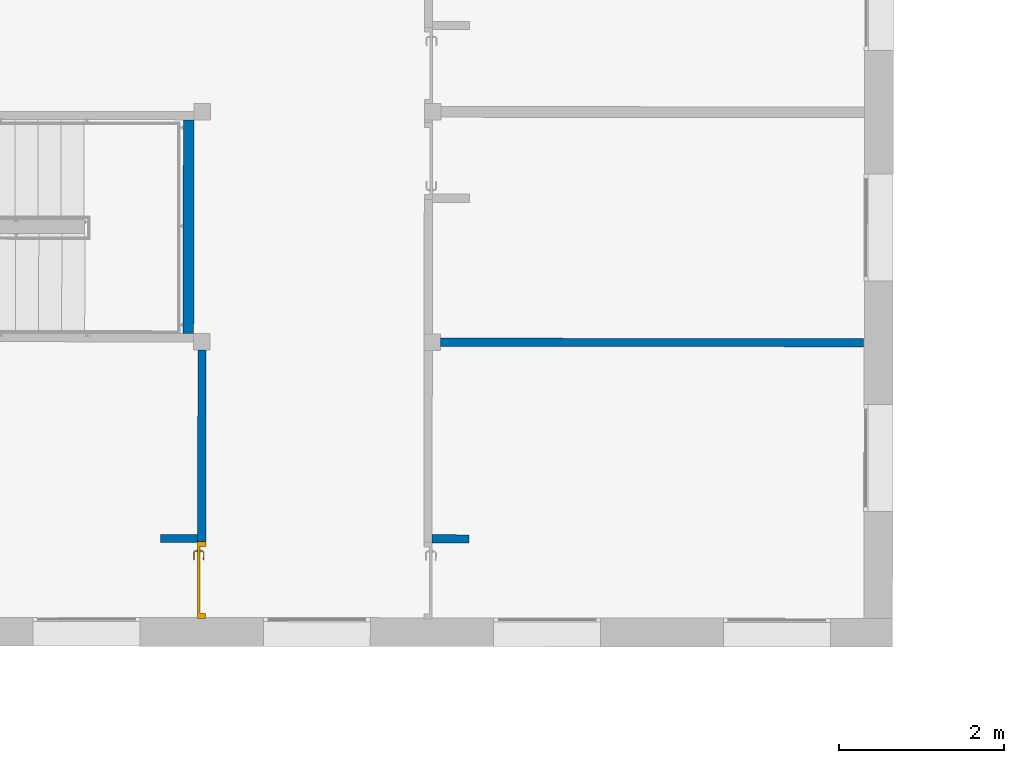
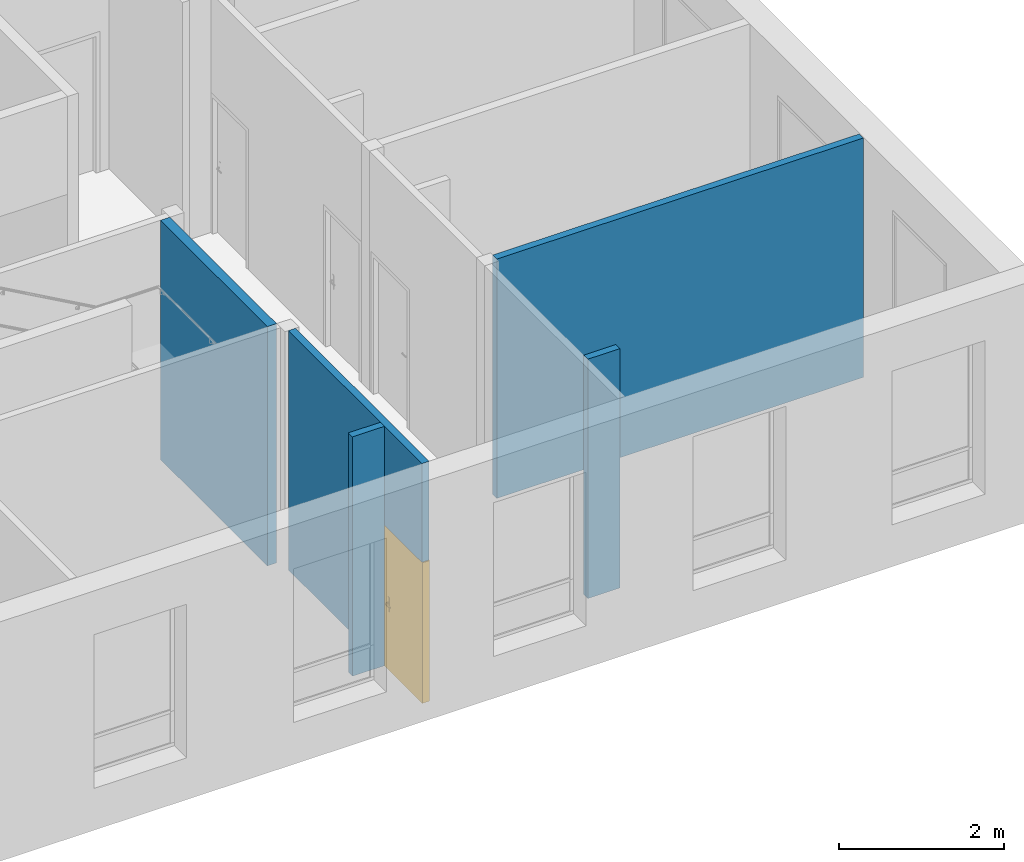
# One storey, part 71 of 101: 5 walls, 1 door, 1 opening.
"""IFC2X3 building model written with IfcOpenShell, lengths in metres."""

from ifc_helpers import new_model, entity, si_unit, converted_unit, derived_unit, direction, frame, frame_2d, origin, place, context, subcontext, project, spatial, rectangle, extrude, faceted_brep, source, transform, mapped, material, material_list, layer, layer_set, layer_usage, type_object, type_shapes, element, fill, save


model = new_model("IFC2X3")

# Units and contexts
model_context = context("Model", 3, precision=1e-05, world=origin(), true_north=direction((6.123233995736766e-17, 1.0)))
body_context = subcontext(model_context, "Body", "Model", "MODEL_VIEW")
ifc_project = project(units=[si_unit("LENGTHUNIT", "METRE"), si_unit("AREAUNIT", "SQUARE_METRE"), converted_unit("PLANEANGLEUNIT", "DEGREE", entity("IfcPlaneAngleMeasure", 0.017453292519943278), si_unit("PLANEANGLEUNIT", "RADIAN"), dimensions=[0, 0, 0, 0, 0, 0, 0]), derived_unit("THERMALTRANSMITTANCEUNIT", [(si_unit("MASSUNIT", "GRAM", prefix="KILO"), 1), (si_unit("THERMODYNAMICTEMPERATUREUNIT", "KELVIN"), -1), (si_unit("TIMEUNIT", "SECOND"), -3)])], contexts=[model_context])

# Site, building, storey
site_placement = place(None, frame((1253.6752467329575, 2072.143113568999, 91.49999999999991), z_axis=(0.0, 0.0, 1.0), x_axis=(0.7237211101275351, 0.6900925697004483, 0.0)))
site = spatial("IfcSite", under=ifc_project, at=site_placement, Name="Surface", CompositionType="ELEMENT")
building_placement = place(site_placement, origin())
building = spatial("IfcBuilding", under=site, at=building_placement, CompositionType="ELEMENT")
storey_placement = place(building_placement, origin())
storey = spatial("IfcBuildingStorey", under=building, at=storey_placement, Name="0- Rdc", CompositionType="ELEMENT", Elevation=-5.764692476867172e-13)

# Walls
ifc_material_1 = material(Name="OMD_Béton blanc")
ifc_layer_1 = layer(ifc_material_1, 0.12999999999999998)
ifc_layer_set_1 = layer_set([ifc_layer_1], Name="Mur de base:MUR 13")
ifc_layer_usage_1 = layer_usage(ifc_layer_set_1, "AXIS2", "NEGATIVE", 0.06499999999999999)
wall_type_1 = type_object("IfcWallType", Name="Mur de base:MUR 13", PredefinedType="STANDARD", material=ifc_layer_set_1)
wall_1_placement = place(storey_placement, frame((177.53357594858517, -19.185278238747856, 0.0), z_axis=(0.0, 0.0, 1.0), x_axis=(-0.6909838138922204, -0.7228702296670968, 0.0)))
element("IfcWallStandardCase", 1, at=wall_1_placement, inside=storey, type_object=wall_type_1, material=ifc_layer_usage_1, Name="Mur de base:MUR 13", ObjectType="Mur de base:MUR 13", context=body_context, shape_type="SweptSolid", body=[
    extrude(rectangle(XDim=2.5999999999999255, YDim=0.12999999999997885, at=frame_2d((1.2999999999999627, 9.575673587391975e-16), x_axis=(-1.0, 0.0))), origin(), (0.0, 0.0, 1.0), 3.5499999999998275),
])
ifc_layer_2 = layer(ifc_material_1, 0.1)
ifc_layer_set_2 = layer_set([ifc_layer_2], Name="Mur de base:MUR 10")
ifc_layer_usage_2 = layer_usage(ifc_layer_set_2, "AXIS2", "NEGATIVE", 0.05)
wall_type_2 = type_object("IfcWallType", Name="Mur de base:MUR 10", PredefinedType="STANDARD", material=ifc_layer_set_2)
wall_2_placement = place(storey_placement, frame((181.59906988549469, -26.806550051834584, 0.0), z_axis=(0.0, 0.0, 1.0), x_axis=(-0.7228702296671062, 0.6909838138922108, 0.0)))
element("IfcWallStandardCase", 2, at=wall_2_placement, inside=storey, type_object=wall_type_2, material=ifc_layer_usage_2, Name="Mur de base:MUR 10", ObjectType="Mur de base:MUR 10", context=body_context, shape_type="SweptSolid", body=[
    extrude(rectangle(XDim=5.140000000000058, YDim=0.100000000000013, at=frame_2d((2.570000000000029, -4.399258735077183e-15), x_axis=(-1.0, 0.0))), origin(), (0.0, 0.0, 1.0), 3.5499999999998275),
])
ifc_layer_usage_3 = layer_usage(ifc_layer_set_2, "AXIS2", "NEGATIVE", 0.05)
wall_3_placement = place(storey_placement, frame((176.4850701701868, -25.22439743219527, 0.0), z_axis=(0.0, 0.0, 1.0), x_axis=(-0.7228702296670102, 0.6909838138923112, 0.0)))
element("IfcWallStandardCase", 3, at=wall_3_placement, inside=storey, type_object=wall_type_2, material=ifc_layer_usage_3, Name="Mur de base:MUR 10", ObjectType="Mur de base:MUR 10", context=body_context, shape_type="SweptSolid", body=[
    extrude(rectangle(XDim=0.449999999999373, YDim=0.10000000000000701, at=frame_2d((0.2249999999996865, -1.4814538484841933e-15), x_axis=(-1.0, 0.0))), origin(), (0.0, 0.0, 1.0), 3.5499999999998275),
])

# Wall, opening, door
ifc_layer_usage_4 = layer_usage(ifc_layer_set_2, "AXIS2", "NEGATIVE", 0.05)
wall_4_placement = place(storey_placement, frame((175.71809485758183, -21.323327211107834, 0.0), z_axis=(0.0, 0.0, 1.0), x_axis=(-0.6909838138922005, -0.7228702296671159, 0.0)))
wall_4 = element("IfcWallStandardCase", 4, at=wall_4_placement, inside=storey, type_object=wall_type_2, material=ifc_layer_usage_4, Name="Mur de base:MUR 10", ObjectType="Mur de base:MUR 10", context=body_context, shape_type="SweptSolid", body=[
    extrude(rectangle(XDim=3.2499999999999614, YDim=0.10000000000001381, at=frame_2d((1.6249999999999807, 4.753142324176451e-16), x_axis=(-1.0, 0.0))), origin(), (0.0, 0.0, 1.0), 3.5499999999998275),
])
opening_placement = place(wall_4_placement, frame((3.2624999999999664, 0.050000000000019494, 0.0)))
opening = element("IfcOpeningElement", 5, at=opening_placement, cuts=wall_4, Name="OMD_Porte 1V tunnel:80x204:1", ObjectType="Opening", context=body_context, shape_type="SweptSolid", body=[
    extrude(rectangle(XDim=2.0850000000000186, YDim=0.9349999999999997, at=frame_2d((1.0425000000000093, 0.46749999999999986), x_axis=(1.0, 0.0))), frame((0.0, 0.0, 0.0), z_axis=(0.0, -1.0, 0.0), x_axis=(0.0, 0.0, 1.0)), (0.0, 0.0, 1.0), 0.1),
])
ifc_material_2 = material(Name="Porte - Poignée")
ifc_material_3 = material(Name="OMD_Peinture mur")
ifc_material_4 = material(Name="OMD_Bois")
ifc_material_list = material_list([ifc_material_2, ifc_material_3, ifc_material_4])
door_style = type_object("IfcDoorStyle", Name="OMD_Porte 1V tunnel:80x204", ConstructionType="NOTDEFINED", OperationType="NOTDEFINED", ParameterTakesPrecedence=False, Sizeable=False, material=ifc_material_list)
shared_shape = source(origin(), body_context, "Body", "Brep", [
    faceted_brep([(0.21297470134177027, 0.03500000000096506, 1.0077804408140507), (0.20900000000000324, 0.03500000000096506, 1.0069999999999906), (0.208999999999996, 0.03500000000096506, 0.9929999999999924), (0.21297470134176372, 0.03500000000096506, 0.9922195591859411), (0.21702529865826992, 0.03500000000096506, 0.9922195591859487), (0.22100000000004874, 0.03500000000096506, 0.9930000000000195), (0.22100000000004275, 0.03500000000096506, 1.0069999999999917), (0.2170252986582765, 0.03500000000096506, 1.007780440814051), (0.22100000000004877, 0.05748520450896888, 0.9930000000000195), (0.22100000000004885, 0.057485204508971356, 1.0069999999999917), (0.21702529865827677, 0.059131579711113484, 1.007780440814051), (0.23083890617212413, 0.07294518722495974, 1.007780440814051), (0.2291610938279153, 0.07699578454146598, 1.0077804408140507), (0.21297470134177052, 0.060809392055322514, 1.0077804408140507), (0.3206847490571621, 0.0664673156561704, 1.0077804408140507), (0.32354895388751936, 0.06933152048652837, 1.0077804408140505), (0.31588468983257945, 0.07699578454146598, 1.0077804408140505), (0.31420687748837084, 0.07294518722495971, 1.0077804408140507), (0.20900000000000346, 0.06245576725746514, 1.0069999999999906), (0.20900000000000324, 0.06245576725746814, 0.9929999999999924), (0.21297470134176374, 0.06080939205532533, 0.9922195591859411), (0.22916109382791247, 0.07699578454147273, 0.9922195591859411), (0.23083890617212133, 0.07294518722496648, 0.9922195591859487), (0.21702529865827, 0.05913157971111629, 0.9922195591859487), (0.32354895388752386, 0.06933152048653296, 0.9922195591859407), (0.3206847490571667, 0.06646731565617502, 0.9922195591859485), (0.3142068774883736, 0.07294518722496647, 0.9922195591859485), (0.3158846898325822, 0.07699578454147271, 0.9922195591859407), (0.23248528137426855, 0.0689704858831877, 0.9930000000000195), (0.23248528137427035, 0.06897048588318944, 1.0069999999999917), (0.22751471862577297, 0.0809704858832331, 1.0069999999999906), (0.22751471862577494, 0.08097048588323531, 0.9929999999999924), (0.2725228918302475, 0.06897048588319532, 0.9930000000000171), (0.3125605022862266, 0.06897048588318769, 0.9930000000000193), (0.31256050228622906, 0.06897048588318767, 1.0069999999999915), (0.2725228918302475, 0.0689704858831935, 1.0069999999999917), (0.2725228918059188, 0.07512492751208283, 1.0078781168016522), (0.31753106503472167, 0.08097048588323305, 1.0069999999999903), (0.2776005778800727, 0.08097048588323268, 1.0069999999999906), (0.31753106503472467, 0.08097048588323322, 0.9929999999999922), (0.2674452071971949, 0.08097048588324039, 0.9929999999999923), (0.2725228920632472, 0.07512492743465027, 0.9921218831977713), (0.317874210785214, 0.06365677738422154, 0.9930000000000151), (0.32635949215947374, 0.07214205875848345, 0.99299999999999), (0.3263594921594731, 0.07214205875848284, 1.0069999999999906), (0.317874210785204, 0.06365677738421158, 1.0069999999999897)], [[[0, 1, 2, 3, 4, 5, 6, 7]], [[6, 5, 8, 9]], [[9, 10, 7, 6]], [[10, 11, 12, 13, 0, 7]], [[14, 15, 16, 17]], [[13, 18, 1, 0]], [[2, 1, 18, 19]], [[19, 20, 3, 2]], [[20, 21, 22, 23, 4, 3]], [[24, 25, 26, 27]], [[23, 8, 5, 4]], [[9, 8, 28, 29]], [[29, 11, 10, 9]], [[12, 30, 18, 13]], [[19, 18, 30, 31]], [[31, 21, 20, 19]], [[22, 28, 8, 23]], [[29, 28, 32, 33, 34, 35]], [[11, 35, 36]], [[16, 37, 38]], [[30, 12, 38]], [[38, 12, 36]], [[36, 35, 17]], [[17, 16, 36]], [[35, 11, 29]], [[34, 17, 35]], [[11, 36, 12]], [[38, 36, 16]], [[31, 30, 38, 37, 39, 40]], [[40, 41, 21]], [[41, 40, 27]], [[21, 31, 40]], [[39, 27, 40]], [[41, 32, 22]], [[22, 21, 41]], [[26, 32, 41]], [[28, 22, 32]], [[32, 26, 33]], [[26, 41, 27]], [[42, 25, 24, 43, 44, 15, 14, 45]], [[34, 33, 42, 45]], [[45, 14, 17, 34]], [[15, 44, 37, 16]], [[39, 37, 44, 43]], [[43, 24, 27, 39]], [[25, 42, 33, 26]]]),
    faceted_brep([(0.21297470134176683, -0.004999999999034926, 1.0077804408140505), (0.2170252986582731, -0.004999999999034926, 1.007780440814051), (0.2210000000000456, -0.004999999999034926, 1.006999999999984), (0.22100000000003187, -0.004999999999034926, 0.9930000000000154), (0.21702529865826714, -0.004999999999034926, 0.9922195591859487), (0.21297470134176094, -0.004999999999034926, 0.992219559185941), (0.20900000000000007, -0.004999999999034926, 0.992999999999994), (0.20900000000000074, -0.004999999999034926, 1.0069999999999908), (0.20900000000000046, -0.03265095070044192, 1.0069999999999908), (0.21297470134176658, -0.03100457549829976, 1.0077804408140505), (0.22902358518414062, -0.04705345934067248, 1.0077804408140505), (0.2307013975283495, -0.04300286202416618, 1.007780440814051), (0.21702529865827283, -0.02932676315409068, 1.007780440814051), (0.3235218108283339, -0.039389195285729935, 1.0077804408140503), (0.3206576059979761, -0.03652499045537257, 1.0077804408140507), (0.3141797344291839, -0.04300286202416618, 1.0077804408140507), (0.31585754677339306, -0.04705345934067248, 1.0077804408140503), (0.22100000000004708, -0.027680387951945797, 1.0069999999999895), (0.22100000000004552, -0.02768038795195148, 0.9930000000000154), (0.21702529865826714, -0.029326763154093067, 0.9922195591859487), (0.23070139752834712, -0.04300286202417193, 0.9922195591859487), (0.2290235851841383, -0.0470534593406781, 0.992219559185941), (0.21297470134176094, -0.031004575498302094, 0.992219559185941), (0.32065760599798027, -0.036524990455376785, 0.9922195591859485), (0.3235218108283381, -0.03938919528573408, 0.9922195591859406), (0.31585754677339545, -0.047053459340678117, 0.9922195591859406), (0.3141797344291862, -0.04300286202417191, 0.9922195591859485), (0.20899999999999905, -0.032650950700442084, 0.9929999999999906), (0.22737720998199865, -0.051028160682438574, 1.0069999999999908), (0.23234777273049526, -0.03902816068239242, 1.0069999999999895), (0.23234777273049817, -0.03902816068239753, 0.9930000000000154), (0.22737720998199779, -0.051028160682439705, 0.9929999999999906), (0.2673076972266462, -0.05102816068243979, 1.0069999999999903), (0.272440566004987, -0.0451828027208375, 1.0078781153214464), (0.3175039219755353, -0.05102816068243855, 1.0069999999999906), (0.27244056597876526, -0.039028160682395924, 1.0069999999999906), (0.3125333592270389, -0.03902816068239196, 1.0069999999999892), (0.31253335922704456, -0.03902816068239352, 0.9930000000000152), (0.27244056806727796, -0.03902816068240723, 0.9930000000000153), (0.27244056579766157, -0.04518280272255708, 0.9921218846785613), (0.3175039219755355, -0.051028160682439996, 0.9929999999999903), (0.27757344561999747, -0.051028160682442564, 0.9929999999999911), (0.3178470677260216, -0.03371445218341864, 1.0069999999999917), (0.3263323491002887, -0.04219973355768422, 1.0069999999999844), (0.3263323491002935, -0.04219973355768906, 0.9929999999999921), (0.31784706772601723, -0.033714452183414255, 0.9930000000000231)], [[[0, 1, 2, 3, 4, 5, 6, 7]], [[8, 9, 0, 7]], [[9, 10, 11, 12, 1, 0]], [[13, 14, 15, 16]], [[12, 17, 2, 1]], [[3, 2, 17, 18]], [[18, 19, 4, 3]], [[19, 20, 21, 22, 5, 4]], [[23, 24, 25, 26]], [[22, 27, 6, 5]], [[7, 6, 27, 8]], [[28, 10, 9, 8]], [[11, 29, 17, 12]], [[18, 17, 29, 30]], [[30, 20, 19, 18]], [[21, 31, 27, 22]], [[8, 27, 31, 28]], [[32, 33, 10]], [[33, 32, 16]], [[10, 28, 32]], [[34, 16, 32]], [[33, 35, 11]], [[11, 10, 33]], [[15, 35, 33]], [[29, 11, 35]], [[35, 15, 36]], [[15, 33, 16]], [[30, 29, 35, 36, 37, 38]], [[20, 38, 39]], [[25, 40, 41]], [[31, 21, 41]], [[41, 21, 39]], [[39, 38, 26]], [[26, 25, 39]], [[38, 20, 30]], [[37, 26, 38]], [[20, 39, 21]], [[41, 39, 25]], [[28, 31, 41, 40, 34, 32]], [[42, 14, 13, 43, 44, 24, 23, 45]], [[43, 13, 16, 34]], [[14, 42, 36, 15]], [[37, 36, 42, 45]], [[45, 23, 26, 37]], [[24, 44, 40, 25]], [[34, 40, 44, 43]]]),
    faceted_brep([(0.22535276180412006, 0.030000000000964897, 0.8660039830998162), (0.2350000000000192, 0.030000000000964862, 0.8700000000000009), (0.2350000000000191, 0.030000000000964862, 1.0800000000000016), (0.2253527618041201, 0.030000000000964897, 1.0839960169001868), (0.21500000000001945, 0.030000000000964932, 1.0853589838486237), (0.20464723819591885, 0.03000000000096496, 1.0839960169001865), (0.19500000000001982, 0.030000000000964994, 1.0800000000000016), (0.19500000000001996, 0.030000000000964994, 0.8700000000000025), (0.20464723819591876, 0.03000000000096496, 0.866003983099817), (0.21500000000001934, 0.030000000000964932, 0.8646410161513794), (0.22535276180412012, 0.0350000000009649, 1.0839960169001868), (0.2350000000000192, 0.03500000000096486, 1.0800000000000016), (0.23500000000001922, 0.03500000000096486, 0.8700000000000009), (0.22535276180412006, 0.0350000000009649, 0.8660039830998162), (0.21500000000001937, 0.03500000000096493, 0.8646410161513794), (0.20464723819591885, 0.03500000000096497, 0.866003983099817), (0.19500000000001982, 0.035000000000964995, 0.8700000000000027), (0.19500000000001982, 0.035000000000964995, 1.0800000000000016), (0.20464723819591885, 0.03500000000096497, 1.0839960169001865), (0.21500000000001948, 0.03500000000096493, 1.0853589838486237)], [[[0, 1, 2, 3, 4, 5, 6, 7, 8, 9]], [[10, 11, 12, 13, 14, 15, 16, 17, 18, 19]], [[11, 10, 3, 2]], [[3, 10, 19, 4]], [[19, 18, 5, 4]], [[18, 17, 6, 5]], [[7, 6, 17, 16]], [[16, 15, 8, 7]], [[8, 15, 14, 9]], [[14, 13, 0, 9]], [[13, 12, 1, 0]], [[2, 1, 12, 11]]]),
    faceted_brep([(0.22535276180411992, -0.004999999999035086, 0.8660039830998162), (0.2350000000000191, -0.004999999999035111, 0.8700000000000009), (0.23500000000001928, -0.004999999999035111, 1.0800000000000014), (0.22535276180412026, -0.004999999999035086, 1.0839960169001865), (0.2150000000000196, -0.004999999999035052, 1.0853589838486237), (0.20464723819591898, -0.0049999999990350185, 1.0839960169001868), (0.19500000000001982, -0.004999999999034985, 1.0800000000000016), (0.19500000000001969, -0.004999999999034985, 0.8700000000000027), (0.20464723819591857, -0.0049999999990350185, 0.8660039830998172), (0.21500000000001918, -0.004999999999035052, 0.8646410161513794), (0.22535276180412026, 0.0, 1.0839960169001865), (0.2350000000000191, 0.0, 1.0800000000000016), (0.2350000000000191, 0.0, 0.8700000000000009), (0.22535276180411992, 0.0, 0.8660039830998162), (0.21500000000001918, 0.0, 0.8646410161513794), (0.20464723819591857, 0.0, 0.8660039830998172), (0.19500000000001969, 0.0, 0.8700000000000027), (0.19500000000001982, 0.0, 1.0800000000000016), (0.20464723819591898, 0.0, 1.0839960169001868), (0.2150000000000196, 0.0, 1.0853589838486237)], [[[0, 1, 2, 3, 4, 5, 6, 7, 8, 9]], [[10, 11, 12, 13, 14, 15, 16, 17, 18, 19]], [[16, 15, 8, 7]], [[8, 15, 14, 9]], [[14, 13, 0, 9]], [[13, 12, 1, 0]], [[2, 1, 12, 11]], [[11, 10, 3, 2]], [[3, 10, 19, 4]], [[19, 18, 5, 4]], [[18, 17, 6, 5]], [[7, 6, 17, 16]]]),
    faceted_brep([(0.14500000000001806, 0.030000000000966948, 0.0), (0.9900000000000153, 0.030000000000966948, 0.0), (0.9900000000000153, 0.0, 0.0), (0.14500000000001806, 0.0, 0.0), (0.14500000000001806, 0.030000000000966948, 2.04), (0.14500000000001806, 0.0, 2.04), (0.9900000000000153, 0.0, 2.04), (0.9900000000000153, 0.030000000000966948, 2.04)], [[[0, 1, 2, 3]], [[4, 0, 3, 5]], [[5, 3, 2, 6]], [[6, 2, 1, 7]], [[7, 1, 0, 4]], [[4, 5, 6, 7]]]),
    faceted_brep([(0.10000000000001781, 0.0, 0.0), (0.10000000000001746, 0.10000000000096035, 0.0), (0.16000000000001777, 0.10000000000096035, 0.0), (0.16000000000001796, 0.03000000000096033, 0.0), (0.145000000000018, 0.03000000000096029, 0.0), (0.14500000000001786, 0.0, 0.0), (0.145000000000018, 0.0, 2.04), (0.9900000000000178, 0.0, 2.0400000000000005), (0.9900000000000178, 0.0, 0.0), (1.0350000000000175, 0.0, 0.0), (1.0350000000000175, 0.0, 2.085), (0.10000000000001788, 0.0, 2.085), (0.14500000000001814, 0.030000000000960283, 2.04), (0.16000000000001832, 0.03000000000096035, 2.0249999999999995), (0.9750000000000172, 0.03000000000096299, 2.0249999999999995), (0.9750000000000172, 0.03000000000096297, 0.0), (0.9900000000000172, 0.03000000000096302, 0.0), (0.9900000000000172, 0.03000000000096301, 2.0399999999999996), (0.16000000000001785, 0.10000000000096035, 2.0249999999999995), (0.1000000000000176, 0.10000000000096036, 2.085), (1.0350000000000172, 0.10000000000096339, 2.085), (1.0350000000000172, 0.10000000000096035, 0.0), (0.9750000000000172, 0.10000000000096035, 0.0), (0.9750000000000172, 0.10000000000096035, 2.025)], [[[0, 1, 2, 3, 4, 5]], [[5, 6, 7, 8, 9, 10, 11, 0]], [[4, 12, 6, 5]], [[3, 13, 14, 15, 16, 17, 12, 4]], [[2, 18, 13, 3]], [[1, 19, 20, 21, 22, 23, 18, 2]], [[0, 11, 19, 1]], [[10, 9, 21, 20]], [[9, 8, 16, 15, 22, 21]], [[17, 16, 8, 7]], [[23, 22, 15, 14]], [[12, 17, 7, 6]], [[18, 23, 14, 13]], [[11, 10, 20, 19]]]),
])
type_shapes(door_style, [shared_shape])
door_placement = place(opening_placement, frame((-1.0350000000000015, -0.10000000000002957, 0.0)))
door = element("IfcDoor", 6, at=door_placement, inside=storey, type_object=door_style, material=ifc_material_list, Name="OMD_Porte 1V tunnel:80x204", ObjectType="OMD_Porte 1V tunnel:80x204", OverallHeight=2.0850000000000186, OverallWidth=0.9350000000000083, context=body_context, shape_type="MappedRepresentation", body=[
    mapped(shared_shape, transform((0.0, 0.0, 0.0), scale=1.0)),
])
fill(opening, door)

# Wall
ifc_layer_usage_5 = layer_usage(ifc_layer_set_2, "AXIS2", "NEGATIVE", 0.05)
wall_5_placement = place(storey_placement, frame((174.09959841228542, -22.9441508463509, 0.0), z_axis=(0.0, 0.0, 1.0), x_axis=(-0.7228702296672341, 0.6909838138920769, 0.0)))
element("IfcWallStandardCase", 7, at=wall_5_placement, inside=storey, type_object=wall_type_2, material=ifc_layer_usage_5, Name="Mur de base:MUR 10", ObjectType="Mur de base:MUR 10", context=body_context, shape_type="SweptSolid", body=[
    extrude(rectangle(XDim=0.4500000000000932, YDim=0.10000000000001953, at=frame_2d((0.2250000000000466, 1.7694179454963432e-16), x_axis=(-1.0, 0.0))), origin(), (0.0, 0.0, 1.0), 3.5499999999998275),
])

save(model, "model.ifc")
